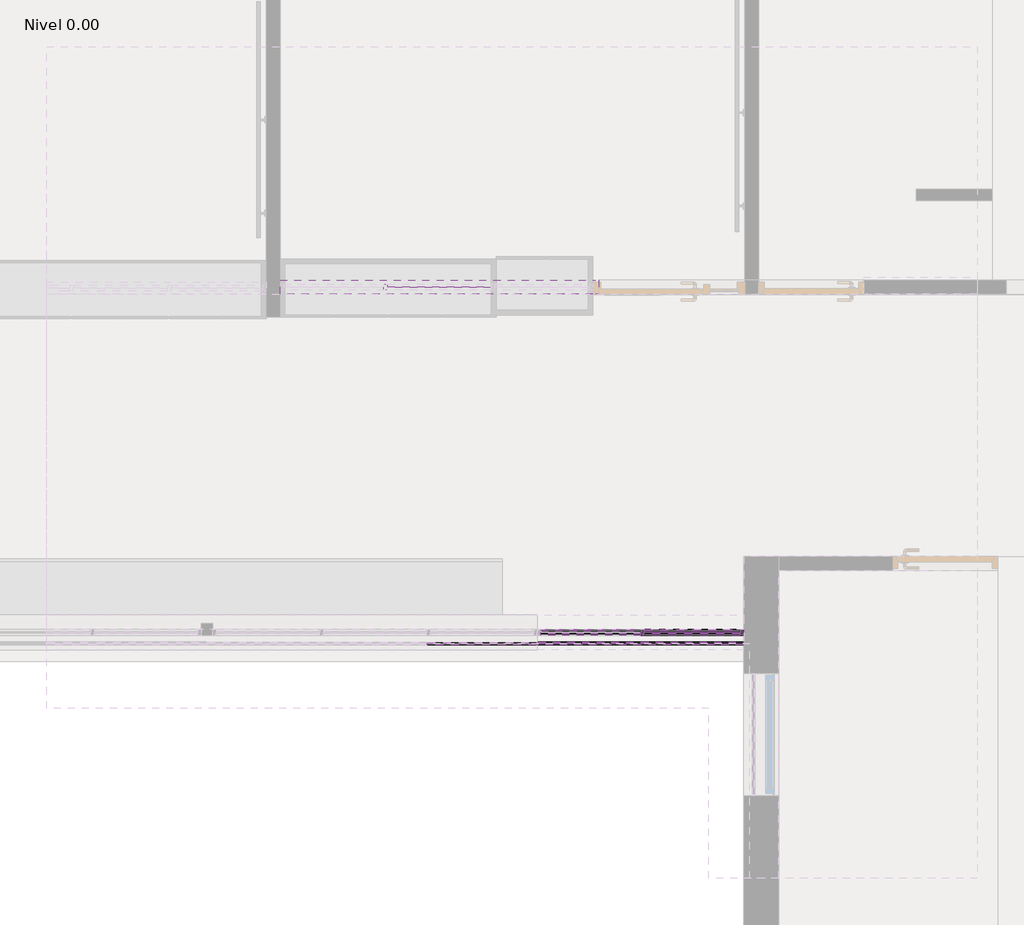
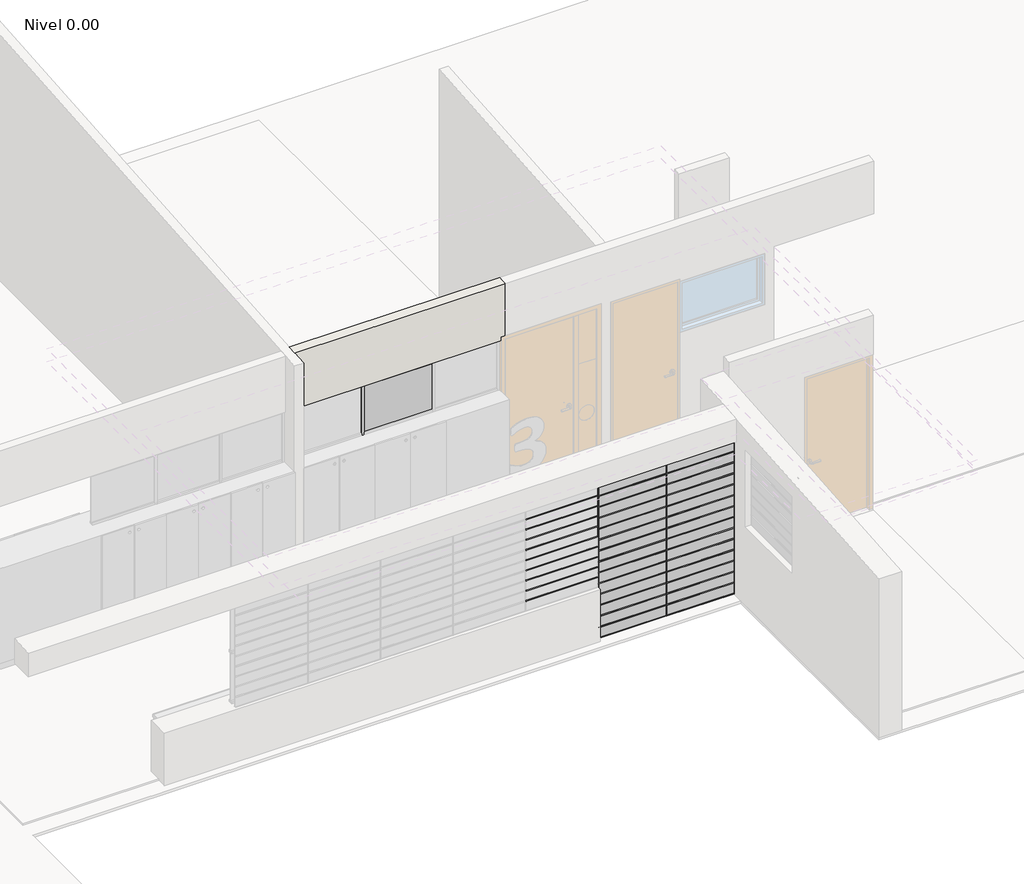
# One storey, part 8 of 27: 100 members, 32 plates, 1 wall.
"""IFC4 building model written with IfcOpenShell, lengths in millimetres."""

from ifc_helpers import new_model, si_unit, origin, place, context, project, spatial, faceted_brep, transform, mapped, element, save
from components import circular_mullion_14d4c897, circular_mullion_3b60ae39, circular_mullion_6b0818a7, l_corner_mullion_78013af7, l_corner_mullion_3361ea78, rectangular_mullion_7bf18598, rectangular_mullion_6f6a8ff1, rectangular_mullion_8f61d6bf, rectangular_mullion_195610a4, rectangular_mullion_a87e72df, rectangular_mullion_5c6d569c, rectangular_mullion_b6f05ad7, rectangular_mullion_4732226b, rectangular_mullion_bccfeea3, system_panel_a7d8eeab, system_panel_f6bb8de1, system_panel_525f9dc7, system_panel_103f76b4, system_panel_glazed_b04dbc7e, system_panel_glazed_a23a02d7, system_panel_glazed_2de7dfe5

model = new_model("IFC4")

# Units and contexts
model_context = context("Model", 3, world=origin())
ifc_project = project(units=[si_unit("LENGTHUNIT", "METRE", prefix="MILLI")], contexts=[model_context])

# Site, building, storey
site = spatial("IfcSite", under=ifc_project)
building = spatial("IfcBuilding", under=site)
storey = spatial("IfcBuildingStorey", under=building, Name="Nivel 0.00", Elevation=0.0)

# Members
placement = place(None, origin())
circular_mullion_shape = circular_mullion_14d4c897(model_context)
element("IfcMember", 1, ObjectType="Circular Mullion : ARQ_HERR_16mm", at=placement, inside=storey, context=model_context, shape_type="MappedRepresentation", body=[
    mapped(circular_mullion_shape, transform((1453.0591264, -3840.5609004, 840.0), x_axis=(0.0, 0.0, 1.0), y_axis=(0.0, -1.0, 0.0), z_axis=(1.0, 0.0, 0.0))),
])
element("IfcMember", 2, ObjectType="Circular Mullion : ARQ_HERR_16mm", at=placement, inside=storey, context=model_context, shape_type="MappedRepresentation", body=[
    mapped(circular_mullion_shape, transform((1453.0591264, -3840.5609004, 980.0), x_axis=(0.0, 0.0, 1.0), y_axis=(0.0, -1.0, 0.0), z_axis=(1.0, 0.0, 0.0))),
])
element("IfcMember", 3, ObjectType="Circular Mullion : ARQ_HERR_16mm", at=placement, inside=storey, context=model_context, shape_type="MappedRepresentation", body=[
    mapped(circular_mullion_shape, transform((1453.0591264, -3840.5609004, 1120.0), x_axis=(0.0, 0.0, 1.0), y_axis=(0.0, -1.0, 0.0), z_axis=(1.0, 0.0, 0.0))),
])
element("IfcMember", 4, ObjectType="Circular Mullion : ARQ_HERR_16mm", at=placement, inside=storey, context=model_context, shape_type="MappedRepresentation", body=[
    mapped(circular_mullion_shape, transform((1453.0591264, -3840.5609004, 1260.0), x_axis=(0.0, 0.0, 1.0), y_axis=(0.0, -1.0, 0.0), z_axis=(1.0, 0.0, 0.0))),
])
element("IfcMember", 5, ObjectType="Circular Mullion : ARQ_HERR_16mm", at=placement, inside=storey, context=model_context, shape_type="MappedRepresentation", body=[
    mapped(circular_mullion_shape, transform((1453.0591264, -3840.5609004, 1400.0), x_axis=(0.0, 0.0, 1.0), y_axis=(0.0, -1.0, 0.0), z_axis=(1.0, 0.0, 0.0))),
])
element("IfcMember", 6, ObjectType="Circular Mullion : ARQ_HERR_16mm", at=placement, inside=storey, context=model_context, shape_type="MappedRepresentation", body=[
    mapped(circular_mullion_shape, transform((1453.0591264, -3840.5609004, 1540.0), x_axis=(0.0, 0.0, 1.0), y_axis=(0.0, -1.0, 0.0), z_axis=(1.0, 0.0, 0.0))),
])
element("IfcMember", 7, ObjectType="Circular Mullion : ARQ_HERR_16mm", at=placement, inside=storey, context=model_context, shape_type="MappedRepresentation", body=[
    mapped(circular_mullion_shape, transform((1453.0591264, -3840.5609004, 1680.0), x_axis=(0.0, 0.0, 1.0), y_axis=(0.0, -1.0, 0.0), z_axis=(1.0, 0.0, 0.0))),
])
element("IfcMember", 8, ObjectType="Circular Mullion : ARQ_HERR_16mm", at=placement, inside=storey, context=model_context, shape_type="MappedRepresentation", body=[
    mapped(circular_mullion_shape, transform((1453.0591264, -3840.5609004, 1820.0), x_axis=(0.0, 0.0, 1.0), y_axis=(0.0, -1.0, 0.0), z_axis=(1.0, 0.0, 0.0))),
])
element("IfcMember", 9, ObjectType="Circular Mullion : ARQ_HERR_16mm", at=placement, inside=storey, context=model_context, shape_type="MappedRepresentation", body=[
    mapped(circular_mullion_shape, transform((1453.0591264, -3840.5609004, 1960.0), x_axis=(0.0, 0.0, 1.0), y_axis=(0.0, -1.0, 0.0), z_axis=(1.0, 0.0, 0.0))),
])
circular_mullion_2_shape = circular_mullion_3b60ae39(model_context)
element("IfcMember", 10, ObjectType="Circular Mullion : ARQ_HERR_16mm", at=placement, inside=storey, context=model_context, shape_type="MappedRepresentation", body=[
    mapped(circular_mullion_2_shape, transform((2343.1027806, -3840.5609004, 150.0), x_axis=(0.0, 0.0, 1.0), y_axis=(0.0, -1.0, 0.0), z_axis=(1.0, 0.0, 0.0))),
])
element("IfcMember", 11, ObjectType="Circular Mullion : ARQ_HERR_16mm", at=placement, inside=storey, context=model_context, shape_type="MappedRepresentation", body=[
    mapped(circular_mullion_2_shape, transform((2343.1027806, -3840.5609004, 300.0), x_axis=(0.0, 0.0, 1.0), y_axis=(0.0, -1.0, 0.0), z_axis=(1.0, 0.0, 0.0))),
])
element("IfcMember", 12, ObjectType="Circular Mullion : ARQ_HERR_16mm", at=placement, inside=storey, context=model_context, shape_type="MappedRepresentation", body=[
    mapped(circular_mullion_2_shape, transform((2343.1027806, -3840.5609004, 450.0), x_axis=(0.0, 0.0, 1.0), y_axis=(0.0, -1.0, 0.0), z_axis=(1.0, 0.0, 0.0))),
])
element("IfcMember", 13, ObjectType="Circular Mullion : ARQ_HERR_16mm", at=placement, inside=storey, context=model_context, shape_type="MappedRepresentation", body=[
    mapped(circular_mullion_2_shape, transform((2343.1027806, -3840.5609004, 600.0), x_axis=(0.0, 0.0, 1.0), y_axis=(0.0, -1.0, 0.0), z_axis=(1.0, 0.0, 0.0))),
])
element("IfcMember", 14, ObjectType="Circular Mullion : ARQ_HERR_16mm", at=placement, inside=storey, context=model_context, shape_type="MappedRepresentation", body=[
    mapped(circular_mullion_2_shape, transform((2343.1027806, -3840.5609004, 750.0), x_axis=(0.0, 0.0, 1.0), y_axis=(0.0, -1.0, 0.0), z_axis=(1.0, 0.0, 0.0))),
])
element("IfcMember", 15, ObjectType="Circular Mullion : ARQ_HERR_16mm", at=placement, inside=storey, context=model_context, shape_type="MappedRepresentation", body=[
    mapped(circular_mullion_2_shape, transform((2343.1027806, -3840.5609004, 900.0), x_axis=(0.0, 0.0, 1.0), y_axis=(0.0, -1.0, 0.0), z_axis=(1.0, 0.0, 0.0))),
])
element("IfcMember", 16, ObjectType="Circular Mullion : ARQ_HERR_16mm", at=placement, inside=storey, context=model_context, shape_type="MappedRepresentation", body=[
    mapped(circular_mullion_2_shape, transform((2343.1027806, -3840.5609004, 1050.0), x_axis=(0.0, 0.0, 1.0), y_axis=(0.0, -1.0, 0.0), z_axis=(1.0, 0.0, 0.0))),
])
element("IfcMember", 17, ObjectType="Circular Mullion : ARQ_HERR_16mm", at=placement, inside=storey, context=model_context, shape_type="MappedRepresentation", body=[
    mapped(circular_mullion_2_shape, transform((2343.1027806, -3840.5609004, 1200.0), x_axis=(0.0, 0.0, 1.0), y_axis=(0.0, -1.0, 0.0), z_axis=(1.0, 0.0, 0.0))),
])
element("IfcMember", 18, ObjectType="Circular Mullion : ARQ_HERR_16mm", at=placement, inside=storey, context=model_context, shape_type="MappedRepresentation", body=[
    mapped(circular_mullion_2_shape, transform((2343.1027806, -3840.5609004, 1350.0), x_axis=(0.0, 0.0, 1.0), y_axis=(0.0, -1.0, 0.0), z_axis=(1.0, 0.0, 0.0))),
])
element("IfcMember", 19, ObjectType="Circular Mullion : ARQ_HERR_16mm", at=placement, inside=storey, context=model_context, shape_type="MappedRepresentation", body=[
    mapped(circular_mullion_2_shape, transform((2343.1027806, -3840.5609004, 1500.0), x_axis=(0.0, 0.0, 1.0), y_axis=(0.0, -1.0, 0.0), z_axis=(1.0, 0.0, 0.0))),
])
element("IfcMember", 20, ObjectType="Circular Mullion : ARQ_HERR_16mm", at=placement, inside=storey, context=model_context, shape_type="MappedRepresentation", body=[
    mapped(circular_mullion_2_shape, transform((2343.1027806, -3840.5609004, 1650.0), x_axis=(0.0, 0.0, 1.0), y_axis=(0.0, -1.0, 0.0), z_axis=(1.0, 0.0, 0.0))),
])
element("IfcMember", 21, ObjectType="Circular Mullion : ARQ_HERR_16mm", at=placement, inside=storey, context=model_context, shape_type="MappedRepresentation", body=[
    mapped(circular_mullion_2_shape, transform((2343.1027806, -3840.5609004, 1800.0), x_axis=(0.0, 0.0, 1.0), y_axis=(0.0, -1.0, 0.0), z_axis=(1.0, 0.0, 0.0))),
])
element("IfcMember", 22, ObjectType="Circular Mullion : ARQ_HERR_16mm", at=placement, inside=storey, context=model_context, shape_type="MappedRepresentation", body=[
    mapped(circular_mullion_2_shape, transform((2343.1027806, -3840.5609004, 1950.0), x_axis=(0.0, 0.0, 1.0), y_axis=(0.0, -1.0, 0.0), z_axis=(1.0, 0.0, 0.0))),
])
circular_mullion_3_shape = circular_mullion_6b0818a7(model_context)
element("IfcMember", 23, ObjectType="Circular Mullion : ARQ_HERR_16mm", at=placement, inside=storey, context=model_context, shape_type="MappedRepresentation", body=[
    mapped(circular_mullion_3_shape, transform((3221.1464348, -3840.5609004, 150.0), x_axis=(0.0, 0.0, 1.0), y_axis=(0.0, -1.0, 0.0), z_axis=(1.0, 0.0, 0.0))),
])
element("IfcMember", 24, ObjectType="Circular Mullion : ARQ_HERR_16mm", at=placement, inside=storey, context=model_context, shape_type="MappedRepresentation", body=[
    mapped(circular_mullion_3_shape, transform((3221.1464348, -3840.5609004, 300.0), x_axis=(0.0, 0.0, 1.0), y_axis=(0.0, -1.0, 0.0), z_axis=(1.0, 0.0, 0.0))),
])
element("IfcMember", 25, ObjectType="Circular Mullion : ARQ_HERR_16mm", at=placement, inside=storey, context=model_context, shape_type="MappedRepresentation", body=[
    mapped(circular_mullion_3_shape, transform((3221.1464348, -3840.5609004, 450.0), x_axis=(0.0, 0.0, 1.0), y_axis=(0.0, -1.0, 0.0), z_axis=(1.0, 0.0, 0.0))),
])
element("IfcMember", 26, ObjectType="Circular Mullion : ARQ_HERR_16mm", at=placement, inside=storey, context=model_context, shape_type="MappedRepresentation", body=[
    mapped(circular_mullion_3_shape, transform((3221.1464348, -3840.5609004, 600.0), x_axis=(0.0, 0.0, 1.0), y_axis=(0.0, -1.0, 0.0), z_axis=(1.0, 0.0, 0.0))),
])
element("IfcMember", 27, ObjectType="Circular Mullion : ARQ_HERR_16mm", at=placement, inside=storey, context=model_context, shape_type="MappedRepresentation", body=[
    mapped(circular_mullion_3_shape, transform((3221.1464348, -3840.5609004, 750.0), x_axis=(0.0, 0.0, 1.0), y_axis=(0.0, -1.0, 0.0), z_axis=(1.0, 0.0, 0.0))),
])
element("IfcMember", 28, ObjectType="Circular Mullion : ARQ_HERR_16mm", at=placement, inside=storey, context=model_context, shape_type="MappedRepresentation", body=[
    mapped(circular_mullion_3_shape, transform((3221.1464348, -3840.5609004, 900.0), x_axis=(0.0, 0.0, 1.0), y_axis=(0.0, -1.0, 0.0), z_axis=(1.0, 0.0, 0.0))),
])
element("IfcMember", 29, ObjectType="Circular Mullion : ARQ_HERR_16mm", at=placement, inside=storey, context=model_context, shape_type="MappedRepresentation", body=[
    mapped(circular_mullion_3_shape, transform((3221.1464348, -3840.5609004, 1050.0), x_axis=(0.0, 0.0, 1.0), y_axis=(0.0, -1.0, 0.0), z_axis=(1.0, 0.0, 0.0))),
])
element("IfcMember", 30, ObjectType="Circular Mullion : ARQ_HERR_16mm", at=placement, inside=storey, context=model_context, shape_type="MappedRepresentation", body=[
    mapped(circular_mullion_3_shape, transform((3221.1464348, -3840.5609004, 1200.0), x_axis=(0.0, 0.0, 1.0), y_axis=(0.0, -1.0, 0.0), z_axis=(1.0, 0.0, 0.0))),
])
element("IfcMember", 31, ObjectType="Circular Mullion : ARQ_HERR_16mm", at=placement, inside=storey, context=model_context, shape_type="MappedRepresentation", body=[
    mapped(circular_mullion_3_shape, transform((3221.1464348, -3840.5609004, 1350.0), x_axis=(0.0, 0.0, 1.0), y_axis=(0.0, -1.0, 0.0), z_axis=(1.0, 0.0, 0.0))),
])
element("IfcMember", 32, ObjectType="Circular Mullion : ARQ_HERR_16mm", at=placement, inside=storey, context=model_context, shape_type="MappedRepresentation", body=[
    mapped(circular_mullion_3_shape, transform((3221.1464348, -3840.5609004, 1500.0), x_axis=(0.0, 0.0, 1.0), y_axis=(0.0, -1.0, 0.0), z_axis=(1.0, 0.0, 0.0))),
])
element("IfcMember", 33, ObjectType="Circular Mullion : ARQ_HERR_16mm", at=placement, inside=storey, context=model_context, shape_type="MappedRepresentation", body=[
    mapped(circular_mullion_3_shape, transform((3221.1464348, -3840.5609004, 1650.0), x_axis=(0.0, 0.0, 1.0), y_axis=(0.0, -1.0, 0.0), z_axis=(1.0, 0.0, 0.0))),
])
element("IfcMember", 34, ObjectType="Circular Mullion : ARQ_HERR_16mm", at=placement, inside=storey, context=model_context, shape_type="MappedRepresentation", body=[
    mapped(circular_mullion_3_shape, transform((3221.1464348, -3840.5609004, 1800.0), x_axis=(0.0, 0.0, 1.0), y_axis=(0.0, -1.0, 0.0), z_axis=(1.0, 0.0, 0.0))),
])
element("IfcMember", 35, ObjectType="Circular Mullion : ARQ_HERR_16mm", at=placement, inside=storey, context=model_context, shape_type="MappedRepresentation", body=[
    mapped(circular_mullion_3_shape, transform((3221.1464348, -3840.5609004, 1950.0), x_axis=(0.0, 0.0, 1.0), y_axis=(0.0, -1.0, 0.0), z_axis=(1.0, 0.0, 0.0))),
])
l_corner_mullion_shape = l_corner_mullion_78013af7(model_context)
element("IfcMember", 36, ObjectType="L Corner Mullion : ARQ_HERR_15X6mm", at=placement, inside=storey, context=model_context, shape_type="MappedRepresentation", body=[
    mapped(l_corner_mullion_shape, transform((3221.1464348, -3840.5609004, 2100.0), x_axis=(0.0, 0.0, 1.0), y_axis=(0.0, -1.0, 0.0), z_axis=(1.0, 0.0, 0.0))),
])
l_corner_mullion_2_shape = l_corner_mullion_3361ea78(model_context)
element("IfcMember", 37, ObjectType="L Corner Mullion : ARQ_HERR_15X6mm", at=placement, inside=storey, context=model_context, shape_type="MappedRepresentation", body=[
    mapped(l_corner_mullion_2_shape, transform((2343.1027806, -3840.5609004, 2100.0), x_axis=(0.0, 0.0, 1.0), y_axis=(0.0, -1.0, 0.0), z_axis=(1.0, 0.0, 0.0))),
])
element("IfcMember", 38, ObjectType="L Corner Mullion : ARQ_HERR_15X6mm", at=placement, inside=storey, context=model_context, shape_type="MappedRepresentation", body=[
    mapped(l_corner_mullion_2_shape, transform((1465.0591264, -3840.5609004, 0.0), x_axis=(0.0, 0.0, -1.0), y_axis=(0.0, -1.0, 0.0), z_axis=(-1.0, 0.0, 0.0))),
])
element("IfcMember", 39, ObjectType="L Corner Mullion : ARQ_HERR_15X6mm", at=placement, inside=storey, context=model_context, shape_type="MappedRepresentation", body=[
    mapped(l_corner_mullion_shape, transform((2349.1027806, -3840.5609004, 0.0), x_axis=(0.0, 0.0, -1.0), y_axis=(0.0, -1.0, 0.0), z_axis=(-1.0, 0.0, 0.0))),
])
rectangular_mullion_shape = rectangular_mullion_7bf18598(model_context)
element("IfcMember", 40, ObjectType="Rectangular Mullion : ARQ_TV_MULL_50x30mm", at=placement, inside=storey, context=model_context, shape_type="MappedRepresentation", body=[
    mapped(rectangular_mullion_shape, transform((3197.1464348, -3740.5609013, 2100.0), x_axis=(0.0, 0.0, 1.0), y_axis=(0.0, -1.0, 0.0), z_axis=(1.0, 0.0, 0.0))),
])
rectangular_mullion_2_shape = rectangular_mullion_6f6a8ff1(model_context)
element("IfcMember", 41, ObjectType="Rectangular Mullion : ARQ_TV_MULL_50x30mm", at=placement, inside=storey, context=model_context, shape_type="MappedRepresentation", body=[
    mapped(rectangular_mullion_2_shape, transform((2343.1027806, -3740.5609013, 2100.0), x_axis=(0.0, 0.0, 1.0), y_axis=(0.0, -1.0, 0.0), z_axis=(1.0, 0.0, 0.0))),
])
element("IfcMember", 42, ObjectType="Rectangular Mullion : ARQ_TV_MULL_50x30mm", at=placement, inside=storey, context=model_context, shape_type="MappedRepresentation", body=[
    mapped(rectangular_mullion_shape, transform((2373.1027806, -3740.5609013, 0.0), x_axis=(0.0, 0.0, -1.0), y_axis=(0.0, -1.0, 0.0), z_axis=(-1.0, 0.0, 0.0))),
])
rectangular_mullion_3_shape = rectangular_mullion_8f61d6bf(model_context)
element("IfcMember", 43, ObjectType="Rectangular Mullion : ARQ_TV_MULL_30x20mm", at=placement, inside=storey, context=model_context, shape_type="MappedRepresentation", body=[
    mapped(rectangular_mullion_3_shape, transform((2343.1027806, -3740.5609013, 700.0), x_axis=(0.0, 0.0, 1.0), y_axis=(0.0, -1.0, 0.0), z_axis=(1.0, 0.0, 0.0))),
])
element("IfcMember", 44, ObjectType="Rectangular Mullion : ARQ_TV_MULL_30x20mm", at=placement, inside=storey, context=model_context, shape_type="MappedRepresentation", body=[
    mapped(rectangular_mullion_3_shape, transform((2343.1027806, -3740.5609013, 1400.0), x_axis=(0.0, 0.0, 1.0), y_axis=(0.0, -1.0, 0.0), z_axis=(1.0, 0.0, 0.0))),
])
rectangular_mullion_4_shape = rectangular_mullion_195610a4(model_context)
element("IfcMember", 45, ObjectType="Rectangular Mullion : ARQ_TV_MULL_30x20mm", at=placement, inside=storey, context=model_context, shape_type="MappedRepresentation", body=[
    mapped(rectangular_mullion_4_shape, transform((3197.1464348, -3740.5609013, 700.0), x_axis=(0.0, 0.0, 1.0), y_axis=(0.0, -1.0, 0.0), z_axis=(1.0, 0.0, 0.0))),
])
element("IfcMember", 46, ObjectType="Rectangular Mullion : ARQ_TV_MULL_30x20mm", at=placement, inside=storey, context=model_context, shape_type="MappedRepresentation", body=[
    mapped(rectangular_mullion_4_shape, transform((3197.1464348, -3740.5609013, 1400.0), x_axis=(0.0, 0.0, 1.0), y_axis=(0.0, -1.0, 0.0), z_axis=(1.0, 0.0, 0.0))),
])
rectangular_mullion_5_shape = rectangular_mullion_a87e72df(model_context)
element("IfcMember", 47, ObjectType="Rectangular Mullion : ARQ_TV_MULL_50x30mm", at=placement, inside=storey, context=model_context, shape_type="MappedRepresentation", body=[
    mapped(rectangular_mullion_5_shape, transform((2358.1027806, -3740.5609013, 0.0), x_axis=(1.0, 0.0, 0.0), y_axis=(0.0, -1.0, 0.0), z_axis=(0.0, 0.0, -1.0))),
])
element("IfcMember", 48, ObjectType="Rectangular Mullion : ARQ_TV_MULL_50x30mm", at=placement, inside=storey, context=model_context, shape_type="MappedRepresentation", body=[
    mapped(rectangular_mullion_5_shape, transform((2358.1027806, -3740.5609013, 1400.0), x_axis=(1.0, 0.0, 0.0), y_axis=(0.0, -1.0, 0.0), z_axis=(0.0, 0.0, -1.0))),
])
rectangular_mullion_6_shape = rectangular_mullion_5c6d569c(model_context)
element("IfcMember", 49, ObjectType="Rectangular Mullion : ARQ_TV_MULL_50x30mm", at=placement, inside=storey, context=model_context, shape_type="MappedRepresentation", body=[
    mapped(rectangular_mullion_6_shape, transform((3227.1464348, -3740.5609013, 0.0), x_axis=(1.0, 0.0, 0.0), y_axis=(0.0, -1.0, 0.0), z_axis=(0.0, 0.0, -1.0))),
])
element("IfcMember", 50, ObjectType="Rectangular Mullion : ARQ_TV_MULL_50x30mm", at=placement, inside=storey, context=model_context, shape_type="MappedRepresentation", body=[
    mapped(rectangular_mullion_6_shape, transform((3227.1464348, -3740.5609013, 1400.0), x_axis=(1.0, 0.0, 0.0), y_axis=(0.0, -1.0, 0.0), z_axis=(0.0, 0.0, -1.0))),
])
element("IfcMember", 51, ObjectType="Rectangular Mullion : ARQ_TV_MULL_50x30mm", at=placement, inside=storey, context=model_context, shape_type="MappedRepresentation", body=[
    mapped(rectangular_mullion_5_shape, transform((2358.1027806, -3740.5609013, 700.0), x_axis=(1.0, 0.0, 0.0), y_axis=(0.0, -1.0, 0.0), z_axis=(0.0, 0.0, -1.0))),
])
element("IfcMember", 52, ObjectType="Rectangular Mullion : ARQ_TV_MULL_50x30mm", at=placement, inside=storey, context=model_context, shape_type="MappedRepresentation", body=[
    mapped(rectangular_mullion_6_shape, transform((3227.1464348, -3740.5609013, 700.0), x_axis=(1.0, 0.0, 0.0), y_axis=(0.0, -1.0, 0.0), z_axis=(0.0, 0.0, -1.0))),
])
element("IfcMember", 53, ObjectType="Rectangular Mullion : ARQ_TV_MULL_50x30mm", at=placement, inside=storey, context=model_context, shape_type="MappedRepresentation", body=[
    mapped(rectangular_mullion_5_shape, transform((159.4306873, -780.6047653, 1400.0), x_axis=(1.0, 0.0, 0.0), y_axis=(0.0, -1.0, 0.0), z_axis=(0.0, 0.0, -1.0))),
])
rectangular_mullion_7_shape = rectangular_mullion_b6f05ad7(model_context)
element("IfcMember", 54, ObjectType="Rectangular Mullion : ARQ_HERR_15X6mm", at=placement, inside=storey, context=model_context, shape_type="MappedRepresentation", body=[
    mapped(rectangular_mullion_7_shape, transform((1459.0591264, -3840.5609004, 1400.0), x_axis=(1.0, 0.0, 0.0), y_axis=(0.0, -1.0, 0.0), z_axis=(0.0, 0.0, -1.0))),
])
element("IfcMember", 55, ObjectType="Rectangular Mullion : ARQ_HERR_15X6mm", at=placement, inside=storey, context=model_context, shape_type="MappedRepresentation", body=[
    mapped(rectangular_mullion_7_shape, transform((1459.0591264, -3840.5609004, 1540.0), x_axis=(1.0, 0.0, 0.0), y_axis=(0.0, -1.0, 0.0), z_axis=(0.0, 0.0, -1.0))),
])
element("IfcMember", 56, ObjectType="Rectangular Mullion : ARQ_HERR_15X6mm", at=placement, inside=storey, context=model_context, shape_type="MappedRepresentation", body=[
    mapped(rectangular_mullion_7_shape, transform((1459.0591264, -3840.5609004, 1680.0), x_axis=(1.0, 0.0, 0.0), y_axis=(0.0, -1.0, 0.0), z_axis=(0.0, 0.0, -1.0))),
])
element("IfcMember", 57, ObjectType="Rectangular Mullion : ARQ_HERR_15X6mm", at=placement, inside=storey, context=model_context, shape_type="MappedRepresentation", body=[
    mapped(rectangular_mullion_7_shape, transform((1459.0591264, -3840.5609004, 1820.0), x_axis=(1.0, 0.0, 0.0), y_axis=(0.0, -1.0, 0.0), z_axis=(0.0, 0.0, -1.0))),
])
element("IfcMember", 58, ObjectType="Rectangular Mullion : ARQ_HERR_15X6mm", at=placement, inside=storey, context=model_context, shape_type="MappedRepresentation", body=[
    mapped(rectangular_mullion_7_shape, transform((1459.0591264, -3840.5609004, 1960.0), x_axis=(1.0, 0.0, 0.0), y_axis=(0.0, -1.0, 0.0), z_axis=(0.0, 0.0, -1.0))),
])
rectangular_mullion_8_shape = rectangular_mullion_4732226b(model_context)
element("IfcMember", 59, ObjectType="Rectangular Mullion : ARQ_HERR_15X6mm", at=placement, inside=storey, context=model_context, shape_type="MappedRepresentation", body=[
    mapped(rectangular_mullion_8_shape, transform((2346.1027806, -3840.5609004, 0.0), x_axis=(1.0, 0.0, 0.0), y_axis=(0.0, -1.0, 0.0), z_axis=(0.0, 0.0, -1.0))),
])
element("IfcMember", 60, ObjectType="Rectangular Mullion : ARQ_HERR_15X6mm", at=placement, inside=storey, context=model_context, shape_type="MappedRepresentation", body=[
    mapped(rectangular_mullion_8_shape, transform((2346.1027806, -3840.5609004, 150.0), x_axis=(1.0, 0.0, 0.0), y_axis=(0.0, -1.0, 0.0), z_axis=(0.0, 0.0, -1.0))),
])
element("IfcMember", 61, ObjectType="Rectangular Mullion : ARQ_HERR_15X6mm", at=placement, inside=storey, context=model_context, shape_type="MappedRepresentation", body=[
    mapped(rectangular_mullion_8_shape, transform((2346.1027806, -3840.5609004, 300.0), x_axis=(1.0, 0.0, 0.0), y_axis=(0.0, -1.0, 0.0), z_axis=(0.0, 0.0, -1.0))),
])
element("IfcMember", 62, ObjectType="Rectangular Mullion : ARQ_HERR_15X6mm", at=placement, inside=storey, context=model_context, shape_type="MappedRepresentation", body=[
    mapped(rectangular_mullion_8_shape, transform((2346.1027806, -3840.5609004, 450.0), x_axis=(1.0, 0.0, 0.0), y_axis=(0.0, -1.0, 0.0), z_axis=(0.0, 0.0, -1.0))),
])
element("IfcMember", 63, ObjectType="Rectangular Mullion : ARQ_HERR_15X6mm", at=placement, inside=storey, context=model_context, shape_type="MappedRepresentation", body=[
    mapped(rectangular_mullion_8_shape, transform((2346.1027806, -3840.5609004, 600.0), x_axis=(1.0, 0.0, 0.0), y_axis=(0.0, -1.0, 0.0), z_axis=(0.0, 0.0, -1.0))),
])
element("IfcMember", 64, ObjectType="Rectangular Mullion : ARQ_HERR_15X6mm", at=placement, inside=storey, context=model_context, shape_type="MappedRepresentation", body=[
    mapped(rectangular_mullion_8_shape, transform((2346.1027806, -3840.5609004, 750.0), x_axis=(1.0, 0.0, 0.0), y_axis=(0.0, -1.0, 0.0), z_axis=(0.0, 0.0, -1.0))),
])
element("IfcMember", 65, ObjectType="Rectangular Mullion : ARQ_HERR_15X6mm", at=placement, inside=storey, context=model_context, shape_type="MappedRepresentation", body=[
    mapped(rectangular_mullion_8_shape, transform((2346.1027806, -3840.5609004, 900.0), x_axis=(1.0, 0.0, 0.0), y_axis=(0.0, -1.0, 0.0), z_axis=(0.0, 0.0, -1.0))),
])
element("IfcMember", 66, ObjectType="Rectangular Mullion : ARQ_HERR_15X6mm", at=placement, inside=storey, context=model_context, shape_type="MappedRepresentation", body=[
    mapped(rectangular_mullion_8_shape, transform((2346.1027806, -3840.5609004, 1050.0), x_axis=(1.0, 0.0, 0.0), y_axis=(0.0, -1.0, 0.0), z_axis=(0.0, 0.0, -1.0))),
])
element("IfcMember", 67, ObjectType="Rectangular Mullion : ARQ_HERR_15X6mm", at=placement, inside=storey, context=model_context, shape_type="MappedRepresentation", body=[
    mapped(rectangular_mullion_8_shape, transform((2346.1027806, -3840.5609004, 1200.0), x_axis=(1.0, 0.0, 0.0), y_axis=(0.0, -1.0, 0.0), z_axis=(0.0, 0.0, -1.0))),
])
element("IfcMember", 68, ObjectType="Rectangular Mullion : ARQ_HERR_15X6mm", at=placement, inside=storey, context=model_context, shape_type="MappedRepresentation", body=[
    mapped(rectangular_mullion_8_shape, transform((2346.1027806, -3840.5609004, 1350.0), x_axis=(1.0, 0.0, 0.0), y_axis=(0.0, -1.0, 0.0), z_axis=(0.0, 0.0, -1.0))),
])
element("IfcMember", 69, ObjectType="Rectangular Mullion : ARQ_HERR_15X6mm", at=placement, inside=storey, context=model_context, shape_type="MappedRepresentation", body=[
    mapped(rectangular_mullion_8_shape, transform((2346.1027806, -3840.5609004, 1500.0), x_axis=(1.0, 0.0, 0.0), y_axis=(0.0, -1.0, 0.0), z_axis=(0.0, 0.0, -1.0))),
])
element("IfcMember", 70, ObjectType="Rectangular Mullion : ARQ_HERR_15X6mm", at=placement, inside=storey, context=model_context, shape_type="MappedRepresentation", body=[
    mapped(rectangular_mullion_8_shape, transform((2346.1027806, -3840.5609004, 1650.0), x_axis=(1.0, 0.0, 0.0), y_axis=(0.0, -1.0, 0.0), z_axis=(0.0, 0.0, -1.0))),
])
element("IfcMember", 71, ObjectType="Rectangular Mullion : ARQ_HERR_15X6mm", at=placement, inside=storey, context=model_context, shape_type="MappedRepresentation", body=[
    mapped(rectangular_mullion_8_shape, transform((2346.1027806, -3840.5609004, 1800.0), x_axis=(1.0, 0.0, 0.0), y_axis=(0.0, -1.0, 0.0), z_axis=(0.0, 0.0, -1.0))),
])
rectangular_mullion_9_shape = rectangular_mullion_bccfeea3(model_context)
element("IfcMember", 72, ObjectType="Rectangular Mullion : ARQ_HERR_15X6mm", at=placement, inside=storey, context=model_context, shape_type="MappedRepresentation", body=[
    mapped(rectangular_mullion_9_shape, transform((3227.1464348, -3840.5609004, 0.0), x_axis=(1.0, 0.0, 0.0), y_axis=(0.0, -1.0, 0.0), z_axis=(0.0, 0.0, -1.0))),
])
element("IfcMember", 73, ObjectType="Rectangular Mullion : ARQ_HERR_15X6mm", at=placement, inside=storey, context=model_context, shape_type="MappedRepresentation", body=[
    mapped(rectangular_mullion_9_shape, transform((3227.1464348, -3840.5609004, 150.0), x_axis=(1.0, 0.0, 0.0), y_axis=(0.0, -1.0, 0.0), z_axis=(0.0, 0.0, -1.0))),
])
element("IfcMember", 74, ObjectType="Rectangular Mullion : ARQ_HERR_15X6mm", at=placement, inside=storey, context=model_context, shape_type="MappedRepresentation", body=[
    mapped(rectangular_mullion_9_shape, transform((3227.1464348, -3840.5609004, 300.0), x_axis=(1.0, 0.0, 0.0), y_axis=(0.0, -1.0, 0.0), z_axis=(0.0, 0.0, -1.0))),
])
element("IfcMember", 75, ObjectType="Rectangular Mullion : ARQ_HERR_15X6mm", at=placement, inside=storey, context=model_context, shape_type="MappedRepresentation", body=[
    mapped(rectangular_mullion_9_shape, transform((3227.1464348, -3840.5609004, 450.0), x_axis=(1.0, 0.0, 0.0), y_axis=(0.0, -1.0, 0.0), z_axis=(0.0, 0.0, -1.0))),
])
element("IfcMember", 76, ObjectType="Rectangular Mullion : ARQ_HERR_15X6mm", at=placement, inside=storey, context=model_context, shape_type="MappedRepresentation", body=[
    mapped(rectangular_mullion_9_shape, transform((3227.1464348, -3840.5609004, 600.0), x_axis=(1.0, 0.0, 0.0), y_axis=(0.0, -1.0, 0.0), z_axis=(0.0, 0.0, -1.0))),
])
element("IfcMember", 77, ObjectType="Rectangular Mullion : ARQ_HERR_15X6mm", at=placement, inside=storey, context=model_context, shape_type="MappedRepresentation", body=[
    mapped(rectangular_mullion_9_shape, transform((3227.1464348, -3840.5609004, 750.0), x_axis=(1.0, 0.0, 0.0), y_axis=(0.0, -1.0, 0.0), z_axis=(0.0, 0.0, -1.0))),
])
element("IfcMember", 78, ObjectType="Rectangular Mullion : ARQ_HERR_15X6mm", at=placement, inside=storey, context=model_context, shape_type="MappedRepresentation", body=[
    mapped(rectangular_mullion_9_shape, transform((3227.1464348, -3840.5609004, 900.0), x_axis=(1.0, 0.0, 0.0), y_axis=(0.0, -1.0, 0.0), z_axis=(0.0, 0.0, -1.0))),
])
element("IfcMember", 79, ObjectType="Rectangular Mullion : ARQ_HERR_15X6mm", at=placement, inside=storey, context=model_context, shape_type="MappedRepresentation", body=[
    mapped(rectangular_mullion_9_shape, transform((3227.1464348, -3840.5609004, 1050.0), x_axis=(1.0, 0.0, 0.0), y_axis=(0.0, -1.0, 0.0), z_axis=(0.0, 0.0, -1.0))),
])
element("IfcMember", 80, ObjectType="Rectangular Mullion : ARQ_HERR_15X6mm", at=placement, inside=storey, context=model_context, shape_type="MappedRepresentation", body=[
    mapped(rectangular_mullion_9_shape, transform((3227.1464348, -3840.5609004, 1200.0), x_axis=(1.0, 0.0, 0.0), y_axis=(0.0, -1.0, 0.0), z_axis=(0.0, 0.0, -1.0))),
])
element("IfcMember", 81, ObjectType="Rectangular Mullion : ARQ_HERR_15X6mm", at=placement, inside=storey, context=model_context, shape_type="MappedRepresentation", body=[
    mapped(rectangular_mullion_9_shape, transform((3227.1464348, -3840.5609004, 1350.0), x_axis=(1.0, 0.0, 0.0), y_axis=(0.0, -1.0, 0.0), z_axis=(0.0, 0.0, -1.0))),
])
element("IfcMember", 82, ObjectType="Rectangular Mullion : ARQ_HERR_15X6mm", at=placement, inside=storey, context=model_context, shape_type="MappedRepresentation", body=[
    mapped(rectangular_mullion_9_shape, transform((3227.1464348, -3840.5609004, 1500.0), x_axis=(1.0, 0.0, 0.0), y_axis=(0.0, -1.0, 0.0), z_axis=(0.0, 0.0, -1.0))),
])
element("IfcMember", 83, ObjectType="Rectangular Mullion : ARQ_HERR_15X6mm", at=placement, inside=storey, context=model_context, shape_type="MappedRepresentation", body=[
    mapped(rectangular_mullion_9_shape, transform((3227.1464348, -3840.5609004, 1650.0), x_axis=(1.0, 0.0, 0.0), y_axis=(0.0, -1.0, 0.0), z_axis=(0.0, 0.0, -1.0))),
])
element("IfcMember", 84, ObjectType="Rectangular Mullion : ARQ_HERR_15X6mm", at=placement, inside=storey, context=model_context, shape_type="MappedRepresentation", body=[
    mapped(rectangular_mullion_9_shape, transform((3227.1464348, -3840.5609004, 1800.0), x_axis=(1.0, 0.0, 0.0), y_axis=(0.0, -1.0, 0.0), z_axis=(0.0, 0.0, -1.0))),
])
element("IfcMember", 85, ObjectType="Rectangular Mullion : ARQ_HERR_15X6mm", at=placement, inside=storey, context=model_context, shape_type="MappedRepresentation", body=[
    mapped(rectangular_mullion_9_shape, transform((1459.0591264, -3840.5609004, 150.0), x_axis=(-1.0, 0.0, 0.0), y_axis=(0.0, -1.0, 0.0), z_axis=(0.0, 0.0, 1.0))),
])
element("IfcMember", 86, ObjectType="Rectangular Mullion : ARQ_HERR_15X6mm", at=placement, inside=storey, context=model_context, shape_type="MappedRepresentation", body=[
    mapped(rectangular_mullion_9_shape, transform((1459.0591264, -3840.5609004, 300.0), x_axis=(-1.0, 0.0, 0.0), y_axis=(0.0, -1.0, 0.0), z_axis=(0.0, 0.0, 1.0))),
])
element("IfcMember", 87, ObjectType="Rectangular Mullion : ARQ_HERR_15X6mm", at=placement, inside=storey, context=model_context, shape_type="MappedRepresentation", body=[
    mapped(rectangular_mullion_9_shape, transform((1459.0591264, -3840.5609004, 450.0), x_axis=(-1.0, 0.0, 0.0), y_axis=(0.0, -1.0, 0.0), z_axis=(0.0, 0.0, 1.0))),
])
element("IfcMember", 88, ObjectType="Rectangular Mullion : ARQ_HERR_15X6mm", at=placement, inside=storey, context=model_context, shape_type="MappedRepresentation", body=[
    mapped(rectangular_mullion_9_shape, transform((1459.0591264, -3840.5609004, 600.0), x_axis=(-1.0, 0.0, 0.0), y_axis=(0.0, -1.0, 0.0), z_axis=(0.0, 0.0, 1.0))),
])
element("IfcMember", 89, ObjectType="Rectangular Mullion : ARQ_HERR_15X6mm", at=placement, inside=storey, context=model_context, shape_type="MappedRepresentation", body=[
    mapped(rectangular_mullion_9_shape, transform((1459.0591264, -3840.5609004, 750.0), x_axis=(-1.0, 0.0, 0.0), y_axis=(0.0, -1.0, 0.0), z_axis=(0.0, 0.0, 1.0))),
])
element("IfcMember", 90, ObjectType="Rectangular Mullion : ARQ_HERR_15X6mm", at=placement, inside=storey, context=model_context, shape_type="MappedRepresentation", body=[
    mapped(rectangular_mullion_9_shape, transform((1459.0591264, -3840.5609004, 900.0), x_axis=(-1.0, 0.0, 0.0), y_axis=(0.0, -1.0, 0.0), z_axis=(0.0, 0.0, 1.0))),
])
element("IfcMember", 91, ObjectType="Rectangular Mullion : ARQ_HERR_15X6mm", at=placement, inside=storey, context=model_context, shape_type="MappedRepresentation", body=[
    mapped(rectangular_mullion_9_shape, transform((1459.0591264, -3840.5609004, 1050.0), x_axis=(-1.0, 0.0, 0.0), y_axis=(0.0, -1.0, 0.0), z_axis=(0.0, 0.0, 1.0))),
])
element("IfcMember", 92, ObjectType="Rectangular Mullion : ARQ_HERR_15X6mm", at=placement, inside=storey, context=model_context, shape_type="MappedRepresentation", body=[
    mapped(rectangular_mullion_9_shape, transform((1459.0591264, -3840.5609004, 1200.0), x_axis=(-1.0, 0.0, 0.0), y_axis=(0.0, -1.0, 0.0), z_axis=(0.0, 0.0, 1.0))),
])
element("IfcMember", 93, ObjectType="Rectangular Mullion : ARQ_HERR_15X6mm", at=placement, inside=storey, context=model_context, shape_type="MappedRepresentation", body=[
    mapped(rectangular_mullion_9_shape, transform((1459.0591264, -3840.5609004, 1350.0), x_axis=(-1.0, 0.0, 0.0), y_axis=(0.0, -1.0, 0.0), z_axis=(0.0, 0.0, 1.0))),
])
element("IfcMember", 94, ObjectType="Rectangular Mullion : ARQ_HERR_15X6mm", at=placement, inside=storey, context=model_context, shape_type="MappedRepresentation", body=[
    mapped(rectangular_mullion_9_shape, transform((1459.0591264, -3840.5609004, 1500.0), x_axis=(-1.0, 0.0, 0.0), y_axis=(0.0, -1.0, 0.0), z_axis=(0.0, 0.0, 1.0))),
])
element("IfcMember", 95, ObjectType="Rectangular Mullion : ARQ_HERR_15X6mm", at=placement, inside=storey, context=model_context, shape_type="MappedRepresentation", body=[
    mapped(rectangular_mullion_9_shape, transform((1459.0591264, -3840.5609004, 1650.0), x_axis=(-1.0, 0.0, 0.0), y_axis=(0.0, -1.0, 0.0), z_axis=(0.0, 0.0, 1.0))),
])
element("IfcMember", 96, ObjectType="Rectangular Mullion : ARQ_HERR_15X6mm", at=placement, inside=storey, context=model_context, shape_type="MappedRepresentation", body=[
    mapped(rectangular_mullion_9_shape, transform((1459.0591264, -3840.5609004, 1800.0), x_axis=(-1.0, 0.0, 0.0), y_axis=(0.0, -1.0, 0.0), z_axis=(0.0, 0.0, 1.0))),
])
element("IfcMember", 97, ObjectType="Rectangular Mullion : ARQ_HERR_15X6mm", at=placement, inside=storey, context=model_context, shape_type="MappedRepresentation", body=[
    mapped(rectangular_mullion_9_shape, transform((1459.0591264, -3840.5609004, 1950.0), x_axis=(-1.0, 0.0, 0.0), y_axis=(0.0, -1.0, 0.0), z_axis=(0.0, 0.0, 1.0))),
])
element("IfcMember", 98, ObjectType="Rectangular Mullion : ARQ_HERR_15X6mm", at=placement, inside=storey, context=model_context, shape_type="MappedRepresentation", body=[
    mapped(rectangular_mullion_8_shape, transform((2346.1027806, -3840.5609004, 1950.0), x_axis=(1.0, 0.0, 0.0), y_axis=(0.0, -1.0, 0.0), z_axis=(0.0, 0.0, -1.0))),
])
element("IfcMember", 99, ObjectType="Rectangular Mullion : ARQ_HERR_15X6mm", at=placement, inside=storey, context=model_context, shape_type="MappedRepresentation", body=[
    mapped(rectangular_mullion_9_shape, transform((1459.0591264, -3840.5609004, 2100.0), x_axis=(-1.0, 0.0, 0.0), y_axis=(0.0, -1.0, 0.0), z_axis=(0.0, 0.0, 1.0))),
])
element("IfcMember", 100, ObjectType="Rectangular Mullion : ARQ_HERR_15X6mm", at=placement, inside=storey, context=model_context, shape_type="MappedRepresentation", body=[
    mapped(rectangular_mullion_9_shape, transform((3227.1464348, -3840.5609004, 1950.0), x_axis=(1.0, 0.0, 0.0), y_axis=(0.0, -1.0, 0.0), z_axis=(0.0, 0.0, -1.0))),
])

# Plates
system_panel_shape = system_panel_a7d8eeab(model_context)
element("IfcPlate", 101, ObjectType="System Panel : VACÍO", at=placement, inside=storey, context=model_context, shape_type="MappedRepresentation", body=[
    mapped(system_panel_shape, transform((1904.0809535, -3840.5609004, 6.0), x_axis=(1.0, 0.0, 0.0), y_axis=(0.0, 1.0, 0.0), z_axis=(0.0, 0.0, 1.0))),
])
element("IfcPlate", 102, ObjectType="System Panel : VACÍO", at=placement, inside=storey, context=model_context, shape_type="MappedRepresentation", body=[
    mapped(system_panel_shape, transform((1904.0809535, -3840.5609004, 1958.0), x_axis=(1.0, 0.0, 0.0), y_axis=(0.0, 1.0, 0.0), z_axis=(0.0, 0.0, 1.0))),
])
system_panel_2_shape = system_panel_f6bb8de1(model_context)
element("IfcPlate", 103, ObjectType="System Panel : VACÍO", at=placement, inside=storey, context=model_context, shape_type="MappedRepresentation", body=[
    mapped(system_panel_2_shape, transform((2785.1246077, -3840.5609004, 6.0), x_axis=(1.0, 0.0, 0.0), y_axis=(0.0, 1.0, 0.0), z_axis=(0.0, 0.0, 1.0))),
])
element("IfcPlate", 104, ObjectType="System Panel : VACÍO", at=placement, inside=storey, context=model_context, shape_type="MappedRepresentation", body=[
    mapped(system_panel_2_shape, transform((2785.1246077, -3840.5609004, 1958.0), x_axis=(1.0, 0.0, 0.0), y_axis=(0.0, 1.0, 0.0), z_axis=(0.0, 0.0, 1.0))),
])
system_panel_3_shape = system_panel_525f9dc7(model_context)
element("IfcPlate", 105, ObjectType="System Panel : VACÍO", at=placement, inside=storey, context=model_context, shape_type="MappedRepresentation", body=[
    mapped(system_panel_3_shape, transform((1904.0809535, -3840.5609004, 158.0), x_axis=(1.0, 0.0, 0.0), y_axis=(0.0, 1.0, 0.0), z_axis=(0.0, 0.0, 1.0))),
])
element("IfcPlate", 106, ObjectType="System Panel : VACÍO", at=placement, inside=storey, context=model_context, shape_type="MappedRepresentation", body=[
    mapped(system_panel_3_shape, transform((1904.0809535, -3840.5609004, 308.0), x_axis=(1.0, 0.0, 0.0), y_axis=(0.0, 1.0, 0.0), z_axis=(0.0, 0.0, 1.0))),
])
element("IfcPlate", 107, ObjectType="System Panel : VACÍO", at=placement, inside=storey, context=model_context, shape_type="MappedRepresentation", body=[
    mapped(system_panel_3_shape, transform((1904.0809535, -3840.5609004, 458.0), x_axis=(1.0, 0.0, 0.0), y_axis=(0.0, 1.0, 0.0), z_axis=(0.0, 0.0, 1.0))),
])
element("IfcPlate", 108, ObjectType="System Panel : VACÍO", at=placement, inside=storey, context=model_context, shape_type="MappedRepresentation", body=[
    mapped(system_panel_3_shape, transform((1904.0809535, -3840.5609004, 608.0), x_axis=(1.0, 0.0, 0.0), y_axis=(0.0, 1.0, 0.0), z_axis=(0.0, 0.0, 1.0))),
])
element("IfcPlate", 109, ObjectType="System Panel : VACÍO", at=placement, inside=storey, context=model_context, shape_type="MappedRepresentation", body=[
    mapped(system_panel_3_shape, transform((1904.0809535, -3840.5609004, 758.0), x_axis=(1.0, 0.0, 0.0), y_axis=(0.0, 1.0, 0.0), z_axis=(0.0, 0.0, 1.0))),
])
element("IfcPlate", 110, ObjectType="System Panel : VACÍO", at=placement, inside=storey, context=model_context, shape_type="MappedRepresentation", body=[
    mapped(system_panel_3_shape, transform((1904.0809535, -3840.5609004, 908.0), x_axis=(1.0, 0.0, 0.0), y_axis=(0.0, 1.0, 0.0), z_axis=(0.0, 0.0, 1.0))),
])
element("IfcPlate", 111, ObjectType="System Panel : VACÍO", at=placement, inside=storey, context=model_context, shape_type="MappedRepresentation", body=[
    mapped(system_panel_3_shape, transform((1904.0809535, -3840.5609004, 1058.0), x_axis=(1.0, 0.0, 0.0), y_axis=(0.0, 1.0, 0.0), z_axis=(0.0, 0.0, 1.0))),
])
element("IfcPlate", 112, ObjectType="System Panel : VACÍO", at=placement, inside=storey, context=model_context, shape_type="MappedRepresentation", body=[
    mapped(system_panel_3_shape, transform((1904.0809535, -3840.5609004, 1208.0), x_axis=(1.0, 0.0, 0.0), y_axis=(0.0, 1.0, 0.0), z_axis=(0.0, 0.0, 1.0))),
])
element("IfcPlate", 113, ObjectType="System Panel : VACÍO", at=placement, inside=storey, context=model_context, shape_type="MappedRepresentation", body=[
    mapped(system_panel_3_shape, transform((1904.0809535, -3840.5609004, 1358.0), x_axis=(1.0, 0.0, 0.0), y_axis=(0.0, 1.0, 0.0), z_axis=(0.0, 0.0, 1.0))),
])
element("IfcPlate", 114, ObjectType="System Panel : VACÍO", at=placement, inside=storey, context=model_context, shape_type="MappedRepresentation", body=[
    mapped(system_panel_3_shape, transform((1904.0809535, -3840.5609004, 1508.0), x_axis=(1.0, 0.0, 0.0), y_axis=(0.0, 1.0, 0.0), z_axis=(0.0, 0.0, 1.0))),
])
element("IfcPlate", 115, ObjectType="System Panel : VACÍO", at=placement, inside=storey, context=model_context, shape_type="MappedRepresentation", body=[
    mapped(system_panel_3_shape, transform((1904.0809535, -3840.5609004, 1658.0), x_axis=(1.0, 0.0, 0.0), y_axis=(0.0, 1.0, 0.0), z_axis=(0.0, 0.0, 1.0))),
])
element("IfcPlate", 116, ObjectType="System Panel : VACÍO", at=placement, inside=storey, context=model_context, shape_type="MappedRepresentation", body=[
    mapped(system_panel_3_shape, transform((1904.0809535, -3840.5609004, 1808.0), x_axis=(1.0, 0.0, 0.0), y_axis=(0.0, 1.0, 0.0), z_axis=(0.0, 0.0, 1.0))),
])
system_panel_4_shape = system_panel_103f76b4(model_context)
element("IfcPlate", 117, ObjectType="System Panel : VACÍO", at=placement, inside=storey, context=model_context, shape_type="MappedRepresentation", body=[
    mapped(system_panel_4_shape, transform((2785.1246077, -3840.5609004, 158.0), x_axis=(1.0, 0.0, 0.0), y_axis=(0.0, 1.0, 0.0), z_axis=(0.0, 0.0, 1.0))),
])
element("IfcPlate", 118, ObjectType="System Panel : VACÍO", at=placement, inside=storey, context=model_context, shape_type="MappedRepresentation", body=[
    mapped(system_panel_4_shape, transform((2785.1246077, -3840.5609004, 308.0), x_axis=(1.0, 0.0, 0.0), y_axis=(0.0, 1.0, 0.0), z_axis=(0.0, 0.0, 1.0))),
])
element("IfcPlate", 119, ObjectType="System Panel : VACÍO", at=placement, inside=storey, context=model_context, shape_type="MappedRepresentation", body=[
    mapped(system_panel_4_shape, transform((2785.1246077, -3840.5609004, 458.0), x_axis=(1.0, 0.0, 0.0), y_axis=(0.0, 1.0, 0.0), z_axis=(0.0, 0.0, 1.0))),
])
element("IfcPlate", 120, ObjectType="System Panel : VACÍO", at=placement, inside=storey, context=model_context, shape_type="MappedRepresentation", body=[
    mapped(system_panel_4_shape, transform((2785.1246077, -3840.5609004, 608.0), x_axis=(1.0, 0.0, 0.0), y_axis=(0.0, 1.0, 0.0), z_axis=(0.0, 0.0, 1.0))),
])
element("IfcPlate", 121, ObjectType="System Panel : VACÍO", at=placement, inside=storey, context=model_context, shape_type="MappedRepresentation", body=[
    mapped(system_panel_4_shape, transform((2785.1246077, -3840.5609004, 758.0), x_axis=(1.0, 0.0, 0.0), y_axis=(0.0, 1.0, 0.0), z_axis=(0.0, 0.0, 1.0))),
])
element("IfcPlate", 122, ObjectType="System Panel : VACÍO", at=placement, inside=storey, context=model_context, shape_type="MappedRepresentation", body=[
    mapped(system_panel_4_shape, transform((2785.1246077, -3840.5609004, 908.0), x_axis=(1.0, 0.0, 0.0), y_axis=(0.0, 1.0, 0.0), z_axis=(0.0, 0.0, 1.0))),
])
element("IfcPlate", 123, ObjectType="System Panel : VACÍO", at=placement, inside=storey, context=model_context, shape_type="MappedRepresentation", body=[
    mapped(system_panel_4_shape, transform((2785.1246077, -3840.5609004, 1058.0), x_axis=(1.0, 0.0, 0.0), y_axis=(0.0, 1.0, 0.0), z_axis=(0.0, 0.0, 1.0))),
])
element("IfcPlate", 124, ObjectType="System Panel : VACÍO", at=placement, inside=storey, context=model_context, shape_type="MappedRepresentation", body=[
    mapped(system_panel_4_shape, transform((2785.1246077, -3840.5609004, 1208.0), x_axis=(1.0, 0.0, 0.0), y_axis=(0.0, 1.0, 0.0), z_axis=(0.0, 0.0, 1.0))),
])
element("IfcPlate", 125, ObjectType="System Panel : VACÍO", at=placement, inside=storey, context=model_context, shape_type="MappedRepresentation", body=[
    mapped(system_panel_4_shape, transform((2785.1246077, -3840.5609004, 1358.0), x_axis=(1.0, 0.0, 0.0), y_axis=(0.0, 1.0, 0.0), z_axis=(0.0, 0.0, 1.0))),
])
element("IfcPlate", 126, ObjectType="System Panel : VACÍO", at=placement, inside=storey, context=model_context, shape_type="MappedRepresentation", body=[
    mapped(system_panel_4_shape, transform((2785.1246077, -3840.5609004, 1508.0), x_axis=(1.0, 0.0, 0.0), y_axis=(0.0, 1.0, 0.0), z_axis=(0.0, 0.0, 1.0))),
])
element("IfcPlate", 127, ObjectType="System Panel : VACÍO", at=placement, inside=storey, context=model_context, shape_type="MappedRepresentation", body=[
    mapped(system_panel_4_shape, transform((2785.1246077, -3840.5609004, 1658.0), x_axis=(1.0, 0.0, 0.0), y_axis=(0.0, 1.0, 0.0), z_axis=(0.0, 0.0, 1.0))),
])
element("IfcPlate", 128, ObjectType="System Panel : VACÍO", at=placement, inside=storey, context=model_context, shape_type="MappedRepresentation", body=[
    mapped(system_panel_4_shape, transform((2785.1246077, -3840.5609004, 1808.0), x_axis=(1.0, 0.0, 0.0), y_axis=(0.0, 1.0, 0.0), z_axis=(0.0, 0.0, 1.0))),
])
system_panel_glazed_shape = system_panel_glazed_b04dbc7e(model_context)
element("IfcPlate", 129, ObjectType="System Panel : Glazed", at=placement, inside=storey, context=model_context, shape_type="MappedRepresentation", body=[
    mapped(system_panel_glazed_shape, transform((2785.1246077, -3740.5609013, 30.0), x_axis=(1.0, 0.0, 0.0), y_axis=(0.0, 1.0, 0.0), z_axis=(0.0, 0.0, 1.0))),
])
element("IfcPlate", 130, ObjectType="System Panel : Glazed", at=placement, inside=storey, context=model_context, shape_type="MappedRepresentation", body=[
    mapped(system_panel_glazed_shape, transform((2785.1246077, -3740.5609013, 1410.0), x_axis=(1.0, 0.0, 0.0), y_axis=(0.0, 1.0, 0.0), z_axis=(0.0, 0.0, 1.0))),
])
system_panel_glazed_2_shape = system_panel_glazed_a23a02d7(model_context)
element("IfcPlate", 131, ObjectType="System Panel : Glazed", at=placement, inside=storey, context=model_context, shape_type="MappedRepresentation", body=[
    mapped(system_panel_glazed_2_shape, transform((2785.1246077, -3740.5609013, 710.0), x_axis=(1.0, 0.0, 0.0), y_axis=(0.0, 1.0, 0.0), z_axis=(0.0, 0.0, 1.0))),
])
system_panel_glazed_3_shape = system_panel_glazed_2de7dfe5(model_context)
element("IfcPlate", 132, ObjectType="System Panel : Glazed", at=placement, inside=storey, context=model_context, shape_type="MappedRepresentation", body=[
    mapped(system_panel_glazed_3_shape, transform((619.4306872, -780.6047653, 1430.0), x_axis=(1.0, 0.0, 0.0), y_axis=(0.0, 1.0, 0.0), z_axis=(0.0, 0.0, 1.0))),
])

# Wall
element("IfcWall", 133, ObjectType="ARQ_TAB_T03_120mm", at=placement, inside=storey, context=model_context, shape_type="Brep", body=[
    faceted_brep([(-745.5693128, -720.6047653, 2876.9677303), (1984.4306872, -720.6047653, 2876.9677303), (1984.4306872, -720.6047653, 2150.0), (1934.4310013, -720.6047653, 2150.0), (1934.4310013, -720.6047653, 2100.0), (-745.5693128, -720.6047653, 2100.0), (1984.4306872, -840.6047653, 2867.3070306), (-745.5693128, -840.6047653, 2867.3070306), (-745.5693128, -840.6047653, 2100.0), (1934.4310013, -840.6047653, 2100.0), (1934.4310013, -840.6047653, 2150.0), (1984.4306872, -840.6047653, 2150.0)], [[[0, 1, 2, 3, 4, 5]], [[6, 7, 8, 9, 10, 11]], [[1, 6, 11, 2]], [[1, 0, 7, 6]], [[7, 0, 5, 8]], [[10, 3, 2, 11]], [[3, 10, 9, 4]], [[5, 4, 9, 8]]]),
])

save(model, "model.ifc")
